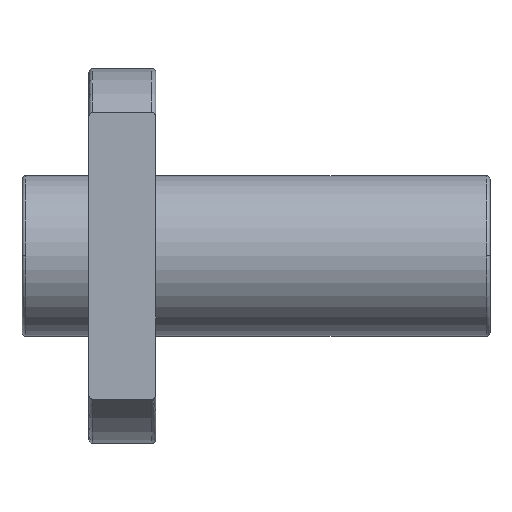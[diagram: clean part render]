
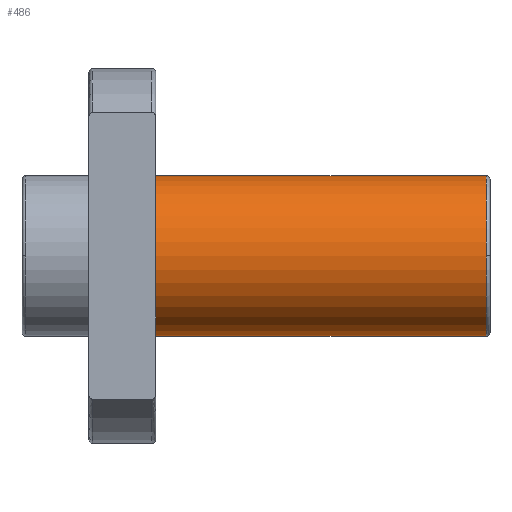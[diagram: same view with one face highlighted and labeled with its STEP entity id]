
A CAD part, top view. The second image highlights one B-rep face of the part: STEP entity #486.
In plain terms, the highlighted cylindrical face has radius 6 mm (diameter 12 mm), a partial arc.
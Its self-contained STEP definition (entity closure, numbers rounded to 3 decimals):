
#335 = TOROIDAL_SURFACE('',#336,5.72,0.28);
#336 = AXIS2_PLACEMENT_3D('',#337,#338,#339);
#337 = CARTESIAN_POINT('',(34.72,0.,0.));
#338 = DIRECTION('',(1.,0.,0.));
#339 = DIRECTION('',(0.,0.,-1.));
#347 = TOROIDAL_SURFACE('',#348,5.72,0.28);
#348 = AXIS2_PLACEMENT_3D('',#349,#350,#351);
#349 = CARTESIAN_POINT('',(34.72,0.,0.));
#350 = DIRECTION('',(1.,0.,0.));
#351 = DIRECTION('',(0.,0.,-1.));
#360 = VERTEX_POINT('',#361);
#361 = CARTESIAN_POINT('',(34.72,6.,0.));
#376 = CYLINDRICAL_SURFACE('',#377,6.);
#377 = AXIS2_PLACEMENT_3D('',#378,#379,#380);
#378 = CARTESIAN_POINT('',(22.36,0.,0.));
#379 = DIRECTION('',(1.,0.,0.));
#380 = DIRECTION('',(-0.,1.,0.));
#388 = EDGE_CURVE('',#360,#389,#391,.T.);
#389 = VERTEX_POINT('',#390);
#390 = CARTESIAN_POINT('',(34.72,0.,6.));
#391 = SURFACE_CURVE('',#392,(#397,#404),.PCURVE_S1.);
#392 = CIRCLE('',#393,6.);
#393 = AXIS2_PLACEMENT_3D('',#394,#395,#396);
#394 = CARTESIAN_POINT('',(34.72,0.,0.));
#395 = DIRECTION('',(1.,0.,0.));
#396 = DIRECTION('',(-0.,1.,0.));
#397 = PCURVE('',#335,#398);
#398 = DEFINITIONAL_REPRESENTATION('',(#399),#403);
#399 = LINE('',#400,#401);
#400 = CARTESIAN_POINT('',(1.571,0.));
#401 = VECTOR('',#402,1.);
#402 = DIRECTION('',(1.,0.));
#403 = ( GEOMETRIC_REPRESENTATION_CONTEXT(2) 
PARAMETRIC_REPRESENTATION_CONTEXT() REPRESENTATION_CONTEXT('2D SPACE',''
  ) );
#404 = PCURVE('',#405,#410);
#405 = CYLINDRICAL_SURFACE('',#406,6.);
#406 = AXIS2_PLACEMENT_3D('',#407,#408,#409);
#407 = CARTESIAN_POINT('',(22.36,0.,0.));
#408 = DIRECTION('',(1.,0.,0.));
#409 = DIRECTION('',(-0.,1.,0.));
#410 = DEFINITIONAL_REPRESENTATION('',(#411),#415);
#411 = LINE('',#412,#413);
#412 = CARTESIAN_POINT('',(0.,12.36));
#413 = VECTOR('',#414,1.);
#414 = DIRECTION('',(1.,0.));
#415 = ( GEOMETRIC_REPRESENTATION_CONTEXT(2) 
PARAMETRIC_REPRESENTATION_CONTEXT() REPRESENTATION_CONTEXT('2D SPACE',''
  ) );
#486 = ADVANCED_FACE('',(#487),#405,.T.);
#487 = FACE_BOUND('',#488,.T.);
#488 = EDGE_LOOP('',(#489,#512,#541,#564,#586));
#489 = ORIENTED_EDGE('',*,*,#490,.F.);
#490 = EDGE_CURVE('',#491,#360,#493,.T.);
#491 = VERTEX_POINT('',#492);
#492 = CARTESIAN_POINT('',(10.,6.,0.));
#493 = SURFACE_CURVE('',#494,(#498,#505),.PCURVE_S1.);
#494 = LINE('',#495,#496);
#495 = CARTESIAN_POINT('',(22.36,6.,0.));
#496 = VECTOR('',#497,1.);
#497 = DIRECTION('',(1.,0.,0.));
#498 = PCURVE('',#405,#499);
#499 = DEFINITIONAL_REPRESENTATION('',(#500),#504);
#500 = LINE('',#501,#502);
#501 = CARTESIAN_POINT('',(0.,0.));
#502 = VECTOR('',#503,1.);
#503 = DIRECTION('',(0.,1.));
#504 = ( GEOMETRIC_REPRESENTATION_CONTEXT(2) 
PARAMETRIC_REPRESENTATION_CONTEXT() REPRESENTATION_CONTEXT('2D SPACE',''
  ) );
#505 = PCURVE('',#376,#506);
#506 = DEFINITIONAL_REPRESENTATION('',(#507),#511);
#507 = LINE('',#508,#509);
#508 = CARTESIAN_POINT('',(6.283,0.));
#509 = VECTOR('',#510,1.);
#510 = DIRECTION('',(0.,1.));
#511 = ( GEOMETRIC_REPRESENTATION_CONTEXT(2) 
PARAMETRIC_REPRESENTATION_CONTEXT() REPRESENTATION_CONTEXT('2D SPACE',''
  ) );
#512 = ORIENTED_EDGE('',*,*,#513,.T.);
#513 = EDGE_CURVE('',#491,#514,#516,.T.);
#514 = VERTEX_POINT('',#515);
#515 = CARTESIAN_POINT('',(10.,-6.,0.));
#516 = SURFACE_CURVE('',#517,(#522,#529),.PCURVE_S1.);
#517 = CIRCLE('',#518,6.);
#518 = AXIS2_PLACEMENT_3D('',#519,#520,#521);
#519 = CARTESIAN_POINT('',(10.,0.,0.));
#520 = DIRECTION('',(1.,0.,0.));
#521 = DIRECTION('',(-0.,1.,0.));
#522 = PCURVE('',#405,#523);
#523 = DEFINITIONAL_REPRESENTATION('',(#524),#528);
#524 = LINE('',#525,#526);
#525 = CARTESIAN_POINT('',(0.,-12.36));
#526 = VECTOR('',#527,1.);
#527 = DIRECTION('',(1.,0.));
#528 = ( GEOMETRIC_REPRESENTATION_CONTEXT(2) 
PARAMETRIC_REPRESENTATION_CONTEXT() REPRESENTATION_CONTEXT('2D SPACE',''
  ) );
#529 = PCURVE('',#530,#535);
#530 = PLANE('',#531);
#531 = AXIS2_PLACEMENT_3D('',#532,#533,#534);
#532 = CARTESIAN_POINT('',(10.,9.86,0.));
#533 = DIRECTION('',(1.,0.,0.));
#534 = DIRECTION('',(0.,1.,0.));
#535 = DEFINITIONAL_REPRESENTATION('',(#536),#540);
#536 = CIRCLE('',#537,6.);
#537 = AXIS2_PLACEMENT_2D('',#538,#539);
#538 = CARTESIAN_POINT('',(-9.86,0.));
#539 = DIRECTION('',(1.,0.));
#540 = ( GEOMETRIC_REPRESENTATION_CONTEXT(2) 
PARAMETRIC_REPRESENTATION_CONTEXT() REPRESENTATION_CONTEXT('2D SPACE',''
  ) );
#541 = ORIENTED_EDGE('',*,*,#542,.F.);
#542 = EDGE_CURVE('',#543,#514,#545,.T.);
#543 = VERTEX_POINT('',#544);
#544 = CARTESIAN_POINT('',(34.72,-6.,0.));
#545 = SURFACE_CURVE('',#546,(#550,#557),.PCURVE_S1.);
#546 = LINE('',#547,#548);
#547 = CARTESIAN_POINT('',(22.36,-6.,0.));
#548 = VECTOR('',#549,1.);
#549 = DIRECTION('',(-1.,-0.,-0.));
#550 = PCURVE('',#405,#551);
#551 = DEFINITIONAL_REPRESENTATION('',(#552),#556);
#552 = LINE('',#553,#554);
#553 = CARTESIAN_POINT('',(3.142,0.));
#554 = VECTOR('',#555,1.);
#555 = DIRECTION('',(0.,-1.));
#556 = ( GEOMETRIC_REPRESENTATION_CONTEXT(2) 
PARAMETRIC_REPRESENTATION_CONTEXT() REPRESENTATION_CONTEXT('2D SPACE',''
  ) );
#557 = PCURVE('',#376,#558);
#558 = DEFINITIONAL_REPRESENTATION('',(#559),#563);
#559 = LINE('',#560,#561);
#560 = CARTESIAN_POINT('',(3.142,0.));
#561 = VECTOR('',#562,1.);
#562 = DIRECTION('',(0.,-1.));
#563 = ( GEOMETRIC_REPRESENTATION_CONTEXT(2) 
PARAMETRIC_REPRESENTATION_CONTEXT() REPRESENTATION_CONTEXT('2D SPACE',''
  ) );
#564 = ORIENTED_EDGE('',*,*,#565,.F.);
#565 = EDGE_CURVE('',#389,#543,#566,.T.);
#566 = SURFACE_CURVE('',#567,(#572,#579),.PCURVE_S1.);
#567 = CIRCLE('',#568,6.);
#568 = AXIS2_PLACEMENT_3D('',#569,#570,#571);
#569 = CARTESIAN_POINT('',(34.72,0.,0.));
#570 = DIRECTION('',(1.,0.,0.));
#571 = DIRECTION('',(-0.,1.,0.));
#572 = PCURVE('',#405,#573);
#573 = DEFINITIONAL_REPRESENTATION('',(#574),#578);
#574 = LINE('',#575,#576);
#575 = CARTESIAN_POINT('',(0.,12.36));
#576 = VECTOR('',#577,1.);
#577 = DIRECTION('',(1.,0.));
#578 = ( GEOMETRIC_REPRESENTATION_CONTEXT(2) 
PARAMETRIC_REPRESENTATION_CONTEXT() REPRESENTATION_CONTEXT('2D SPACE',''
  ) );
#579 = PCURVE('',#347,#580);
#580 = DEFINITIONAL_REPRESENTATION('',(#581),#585);
#581 = LINE('',#582,#583);
#582 = CARTESIAN_POINT('',(1.571,0.));
#583 = VECTOR('',#584,1.);
#584 = DIRECTION('',(1.,0.));
#585 = ( GEOMETRIC_REPRESENTATION_CONTEXT(2) 
PARAMETRIC_REPRESENTATION_CONTEXT() REPRESENTATION_CONTEXT('2D SPACE',''
  ) );
#586 = ORIENTED_EDGE('',*,*,#388,.F.);
